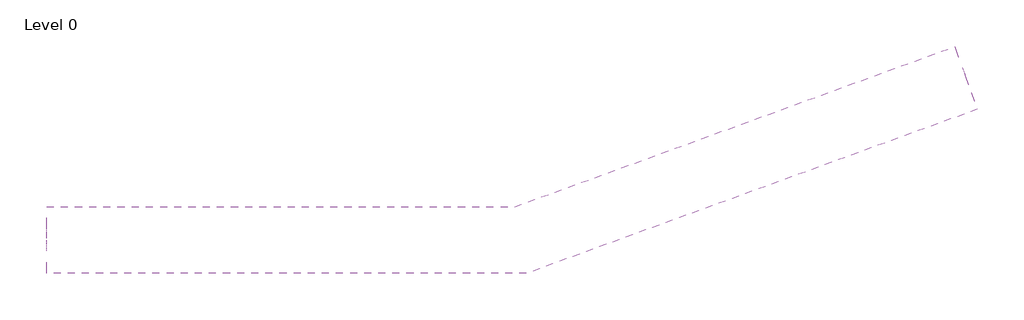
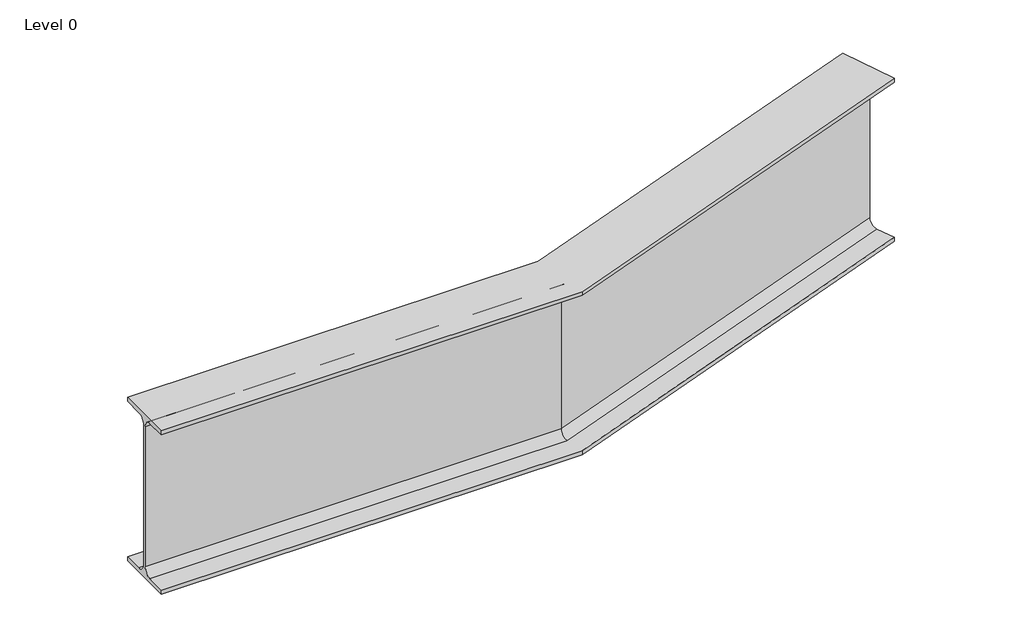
# One storey, incomplete: 1 beam.
"""IFC4 building model written with IfcOpenShell, lengths in millimetres."""

import ifcopenshell
import ifcopenshell.guid

model = None  # the IFC model being written
_history = None  # IfcOwnerHistory: only IFC2X3 demands one
_inside = {}  # id of a spatial element -> (the spatial element, [elements in it])
_under = {}  # id of a project, library or spatial element -> (it, [spatial elements below it])
_declared = {}  # id of a project -> (the project, [libraries it declares])
_typed = {}  # id of a type object -> (the type object, [elements of that type])
_made_of = {}  # id of a material, layer set ... -> (it, [elements and type objects made of it])


def new_model(schema):
    """Start an empty IFC model of exactly this schema.

    Asked for "IFC4X3", IfcOpenShell would pick the latest addendum, in which some entities
    have other attributes; the version numbers below select the first issue.
    IFC2X3 requires an IfcOwnerHistory on every rooted entity: one is made here for all.
    """
    global model, _history
    if schema == "IFC4X3":
        model = ifcopenshell.file(schema_version=(4, 3, 0, 0))
    else:
        model = ifcopenshell.file(schema=schema)
    _inside.clear()
    _under.clear()
    _declared.clear()
    _typed.clear()
    _made_of.clear()
    _history = None
    if model.schema == "IFC2X3":
        org = make("IfcOrganization", Name="unknown")
        user = make(
            "IfcPersonAndOrganization",
            ThePerson=make("IfcPerson", FamilyName="unknown"),
            TheOrganization=org,
        )
        app = make(
            "IfcApplication",
            ApplicationDeveloper=org,
            Version="unknown",
            ApplicationFullName="unknown",
            ApplicationIdentifier="unknown",
        )
        _history = make(
            "IfcOwnerHistory",
            OwningUser=user,
            OwningApplication=app,
            ChangeAction="ADDED",
            CreationDate=0,
        )
    return model


def make(cls, **values):
    """One entity of the class cls with the attributes given. An attribute that is None is left unset."""
    return model.create_entity(
        cls, **{name: value for name, value in values.items() if value is not None}
    )


def rooted(cls, **values):
    """An entity with a GlobalId (a new one), such as an element, a storey or a relation."""
    return make(cls, GlobalId=ifcopenshell.guid.new(), OwnerHistory=_history, **values)


def si_unit(unit_type, name, prefix=None):
    """IfcSIUnit, for example si_unit("LENGTHUNIT", "METRE", prefix="MILLI")."""
    return make("IfcSIUnit", UnitType=unit_type, Prefix=prefix, Name=name)


def assignment(units):
    """IfcUnitAssignment: the units of a project."""
    return None if units is None else make("IfcUnitAssignment", Units=units)


def point(xyz):
    """IfcCartesianPoint."""
    return None if xyz is None else make("IfcCartesianPoint", Coordinates=xyz)


def direction(xyz):
    """IfcDirection."""
    return None if xyz is None else make("IfcDirection", DirectionRatios=xyz)


def frame(location, z_axis=None, x_axis=None):
    """IfcAxis2Placement3D, a coordinate frame: its origin and axes. An axis left out is left unset."""
    return make(
        "IfcAxis2Placement3D",
        Location=point(location),
        Axis=direction(z_axis),
        RefDirection=direction(x_axis),
    )


def origin():
    """The frame at (0, 0, 0) with its axes left unset."""
    return frame((0.0, 0.0, 0.0))


def place(relative_to, where):
    """IfcLocalPlacement: puts the frame where relative to a parent placement (None: the world)."""
    return make(
        "IfcLocalPlacement", PlacementRelTo=relative_to, RelativePlacement=where
    )


def context(
    kind, dimensions, precision=None, world=None, true_north=None, identifier=None
):
    """IfcGeometricRepresentationContext, for example the 3D "Model" context."""
    return make(
        "IfcGeometricRepresentationContext",
        ContextIdentifier=identifier,
        ContextType=kind,
        CoordinateSpaceDimension=dimensions,
        Precision=precision,
        WorldCoordinateSystem=world,
        TrueNorth=true_north,
    )


def project(units=None, contexts=None):
    """IfcProject with its units and contexts."""
    return rooted(
        "IfcProject",
        Name="project",
        RepresentationContexts=contexts,
        UnitsInContext=assignment(units),
    )


def spatial(cls, under=None, at=None, **own):
    """A site, building, storey or space (cls), placed at a placement, below another one or the project."""
    s = rooted(cls, ObjectPlacement=at, **own)
    if under is not None:
        _under.setdefault(under.id(), (under, []))[1].append(s)
    return s


def polyline(points):
    """IfcPolyline through the points."""
    return make("IfcPolyline", Points=[point(p) for p in points])


def circle_curve(where, radius):
    """IfcCircle in the frame where."""
    return make("IfcCircle", Position=where, Radius=radius)


def ellipse_curve(where, semi_axis1, semi_axis2):
    """IfcEllipse in the frame where."""
    return make(
        "IfcEllipse", Position=where, SemiAxis1=semi_axis1, SemiAxis2=semi_axis2
    )


def shape(context_of_items, identifier, shape_type, items):
    """IfcShapeRepresentation: the items that make up one representation, for example the "Body"."""
    return make(
        "IfcShapeRepresentation",
        ContextOfItems=context_of_items,
        RepresentationIdentifier=identifier,
        RepresentationType=shape_type,
        Items=items,
    )


def source(mapping_origin, context_of_items, identifier, shape_type, items):
    """IfcRepresentationMap: a shape defined once, which mapped items show again and again."""
    return make(
        "IfcRepresentationMap",
        MappingOrigin=mapping_origin,
        MappedRepresentation=shape(context_of_items, identifier, shape_type, items),
    )


def transform(
    local_origin,
    x_axis=None,
    y_axis=None,
    z_axis=None,
    scale=None,
    scale2=None,
    scale3=None,
    uniform=True,
):
    """IfcCartesianTransformationOperator3D, or its non-uniform kind. x_axis, y_axis, z_axis: its Axis1, 2, 3."""
    if uniform:
        return make(
            "IfcCartesianTransformationOperator3D",
            Axis1=direction(x_axis),
            Axis2=direction(y_axis),
            LocalOrigin=point(local_origin),
            Scale=scale,
            Axis3=direction(z_axis),
        )
    return make(
        "IfcCartesianTransformationOperator3DnonUniform",
        Axis1=direction(x_axis),
        Axis2=direction(y_axis),
        LocalOrigin=point(local_origin),
        Scale=scale,
        Axis3=direction(z_axis),
        Scale2=scale2,
        Scale3=scale3,
    )


def mapped(mapping_source, mapping_target):
    """IfcMappedItem: shows the shape of a source again, moved by a transform."""
    return make(
        "IfcMappedItem", MappingSource=mapping_source, MappingTarget=mapping_target
    )


def made_of(thing, what):
    """Note that an element or type object is made of a material, layer set ...; save() writes the relation."""
    if what is not None:
        _made_of.setdefault(what.id(), (what, []))[1].append(thing)
    return thing


def element(
    cls,
    number,
    at=None,
    inside=None,
    cuts=None,
    type_object=None,
    material=None,
    context=None,
    identifier="Body",
    shape_type=None,
    held_by="IfcProductDefinitionShape",
    body=None,
    shapes=None,
    **own,
):
    """One element of the class cls, such as IfcWall. Its Tag is "e" and its number.

    at: its placement. inside: the storey or other place that contains it. cuts: it is an
    opening in that element (IfcRelVoidsElement). A single representation is given by context,
    identifier, shape_type and body (its items); several are given by shapes. held_by: the class
    of the entity that holds the representations. save() writes the other relations.
    """
    e = rooted(cls, Tag="e%d" % number, ObjectPlacement=at, **own)
    if body is not None:
        shapes = [shape(context, identifier, shape_type, body)]
    if shapes is not None:
        e.Representation = make(held_by, Representations=shapes)
    if inside is not None:
        _inside.setdefault(inside.id(), (inside, []))[1].append(e)
    if cuts is not None:
        rooted(
            "IfcRelVoidsElement", RelatingBuildingElement=cuts, RelatedOpeningElement=e
        )
    if type_object is not None:
        _typed.setdefault(type_object.id(), (type_object, []))[1].append(e)
    return made_of(e, material)


def aggregate(whole, parts):
    """IfcRelAggregates: a whole, such as a stair, and the parts it consists of."""
    return rooted("IfcRelAggregates", RelatingObject=whole, RelatedObjects=parts)


def save(model, path):
    """Write the relations noted so far, then the file.

    IfcRelAggregates (storeys below a building ...), IfcRelContainedInSpatialStructure (elements
    in a storey), IfcRelDefinesByType, IfcRelAssociatesMaterial and IfcRelDeclares: one each for
    every whole, place, type object, material and project.
    """
    for whole, parts in _under.values():
        aggregate(whole, parts)
    for where, things in _inside.values():
        rooted(
            "IfcRelContainedInSpatialStructure",
            RelatedElements=things,
            RelatingStructure=where,
        )
    for kind, things in _typed.values():
        rooted("IfcRelDefinesByType", RelatedObjects=things, RelatingType=kind)
    for what, things in _made_of.values():
        rooted("IfcRelAssociatesMaterial", RelatedObjects=things, RelatingMaterial=what)
    for by, libraries in _declared.values():
        rooted("IfcRelDeclares", RelatingContext=by, RelatedDefinitions=libraries)
    model.write(path)


def plane_surface(at):
    """IfcPlane: the flat surface through the origin of the frame at, square to its z axis."""
    return make("IfcPlane", Position=at)


def revolved_surface(curve, axis_point, axis_direction):
    """IfcSurfaceOfRevolution: the curve turned about the line through axis_point along axis_direction."""
    return make(
        "IfcSurfaceOfRevolution",
        SweptCurve=make("IfcArbitraryOpenProfileDef", ProfileType="CURVE", Curve=curve),
        AxisPosition=make("IfcAxis1Placement", Location=point(axis_point), Axis=direction(axis_direction)),
    )


def advanced_brep(points, edges, surfaces, faces):
    """IfcAdvancedBrep: a solid bounded by faces that lie on surfaces and meet in shared edges.

    An edge is (start, end): straight between two places in points (the first is 0);
    or (start, end, curve); or (start, end, curve, False) where it runs against its curve.
    A face is (place in surfaces, loops), or (place, loops, False) where it looks against
    its surface's normal. A loop lists edges by number (the first is 1), with a minus sign
    where the edge is run from its end to its start. The first loop is the outer one.
    """
    corners = [point(p) for p in points]
    vertices = [make("IfcVertexPoint", VertexGeometry=c) for c in corners]
    made = []
    for start, end, *more in edges:
        made.append(
            make(
                "IfcEdgeCurve",
                EdgeStart=vertices[start],
                EdgeEnd=vertices[end],
                EdgeGeometry=more[0] if more else make("IfcPolyline", Points=[corners[start], corners[end]]),
                SameSense=more[1] if len(more) > 1 else True,
            )
        )
    hull = []
    for where, loops, *sense in faces:
        bounds = []
        for j, loop in enumerate(loops):
            ring = [make("IfcOrientedEdge", EdgeElement=made[abs(k) - 1], Orientation=k > 0) for k in loop]
            bounds.append(
                make(
                    "IfcFaceOuterBound" if j == 0 else "IfcFaceBound",
                    Bound=make("IfcEdgeLoop", EdgeList=ring),
                    Orientation=True,
                )
            )
        hull.append(make("IfcAdvancedFace", Bounds=bounds, FaceSurface=surfaces[where], SameSense=sense[0] if sense else True))
    return make("IfcAdvancedBrep", Outer=make("IfcClosedShell", CfsFaces=hull))


def beam_3adde7b2(model_context):
    return source(origin(), model_context, "Body", "AdvancedBrep", [
        advanced_brep(
        [(30484.4500022, 15287.0000005, 3256.0), (30484.4500022, 15338.3000005, 3256.0), (30484.4500022, 15359.4000005, 3277.1), (30484.4500022, 15359.4000005, 3662.9), (30484.4500022, 15338.3000005, 3684.0), (30484.4500022, 15287.0000005, 3684.0), (30484.4500022, 15287.0000005, 3694.9), (30484.4500022, 15439.4000005, 3694.9), (30484.4500022, 15439.4000005, 3684.0), (30484.4500022, 15388.1000005, 3684.0), (30484.4500022, 15367.0000005, 3662.9), (30484.4500022, 15367.0000005, 3277.1), (30484.4500022, 15388.1000005, 3256.0), (30484.4500022, 15439.4000005, 3256.0), (30484.4500022, 15439.4000005, 3245.1), (30484.4500022, 15287.0000005, 3245.1), (31580.7314082, 15287.0000005, 3256.0), (32610.8989551, 15661.9503238, 3256.0), (32593.3533217, 15710.1565552, 3256.0), (31571.6858341, 15338.3000005, 3256.0), (31567.9653348, 15359.4000005, 3277.1), (31567.9653348, 15359.4000005, 3662.9), (31571.6858341, 15338.3000005, 3684.0), (32593.3533217, 15710.1565552, 3684.0), (32610.8989551, 15661.9503238, 3684.0), (31580.7314082, 15287.0000005, 3684.0), (31580.7314082, 15287.0000005, 3694.9), (32610.8989551, 15661.9503238, 3694.9), (32558.7750852, 15805.1594792, 3694.9), (31553.8591764, 15439.4000005, 3694.9), (31553.8591764, 15439.4000005, 3684.0), (32558.7750852, 15805.1594792, 3684.0), (32576.3207186, 15756.9532478, 3684.0), (31562.9047505, 15388.1000005, 3684.0), (31566.6252498, 15367.0000005, 3662.9), (31566.6252498, 15367.0000005, 3277.1), (31562.9047505, 15388.1000005, 3256.0), (32576.3207186, 15756.9532478, 3256.0), (32558.7750852, 15805.1594792, 3256.0), (31553.8591764, 15439.4000005, 3256.0), (31553.8591764, 15439.4000005, 3245.1), (32558.7750852, 15805.1594792, 3245.1), (32610.8989551, 15661.9503238, 3245.1), (31580.7314082, 15287.0000005, 3245.1), (32583.5373436, 15737.1257335, 3277.1), (32583.5373436, 15737.1257335, 3662.9), (32586.1366967, 15729.9840695, 3662.9), (32586.1366967, 15729.9840695, 3277.1)],
        [
            (0, 1),
            (1, 2, circle_curve(frame((30484.4500022, 15338.3000005, 3277.1), z_axis=(1.0, 0.0, 0.0), x_axis=(0.0, 1.0, 0.0)), 21.1)),
            (2, 3),
            (3, 4, circle_curve(frame((30484.4500022, 15338.3000005, 3662.9), z_axis=(1.0, 0.0, 0.0), x_axis=(0.0, 1.0, 0.0)), 21.1)),
            (4, 5),
            (5, 6),
            (6, 7),
            (7, 8),
            (8, 9),
            (9, 10, circle_curve(frame((30484.4500022, 15388.1000005, 3662.9), z_axis=(1.0, 0.0, 0.0), x_axis=(0.0, 1.0, 0.0)), 21.1)),
            (10, 11),
            (11, 12, circle_curve(frame((30484.4500022, 15388.1000005, 3277.1), z_axis=(1.0, 0.0, 0.0), x_axis=(0.0, 1.0, 0.0)), 21.1)),
            (12, 13),
            (13, 14),
            (14, 15),
            (15, 0),
            (0, 16),
            (16, 17),
            (17, 18),
            (18, 19),
            (19, 1),
            (19, 20, ellipse_curve(frame((31571.6858341, 15338.3000005, 3277.1), z_axis=(0.9848077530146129, 0.17364817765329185, 0.0), x_axis=(0.17364817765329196, -0.984807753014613, 0.0)), 21.4255015, 21.1)),
            (20, 2),
            (20, 21),
            (21, 3),
            (21, 22, ellipse_curve(frame((31571.6858341, 15338.3000005, 3662.9), z_axis=(0.9848077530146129, 0.17364817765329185, 0.0), x_axis=(0.17364817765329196, -0.984807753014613, 0.0)), 21.4255015, 21.1)),
            (22, 4),
            (22, 23),
            (23, 24),
            (24, 25),
            (25, 5),
            (25, 26),
            (26, 6),
            (26, 27),
            (27, 28),
            (28, 29),
            (29, 7),
            (29, 30),
            (30, 8),
            (30, 31),
            (31, 32),
            (32, 33),
            (33, 9),
            (33, 34, ellipse_curve(frame((31562.9047505, 15388.1000005, 3662.9), z_axis=(0.9848077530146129, 0.17364817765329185, 0.0), x_axis=(0.17364817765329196, -0.984807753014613, 0.0)), 21.4255015, 21.1)),
            (34, 10),
            (34, 35),
            (35, 11),
            (35, 36, ellipse_curve(frame((31562.9047505, 15388.1000005, 3277.1), z_axis=(0.9848077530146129, 0.17364817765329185, 0.0), x_axis=(0.17364817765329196, -0.984807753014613, 0.0)), 21.4255015, 21.1)),
            (36, 12),
            (36, 37),
            (37, 38),
            (38, 39),
            (39, 13),
            (39, 40),
            (40, 14),
            (40, 41),
            (41, 42),
            (42, 43),
            (43, 15),
            (43, 16),
            (17, 42),
            (41, 38),
            (37, 44, circle_curve(frame((32576.3207186, 15756.9532478, 3277.1), z_axis=(-0.9396926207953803, -0.34202014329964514, 0.0), x_axis=(-0.34202014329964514, 0.9396926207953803, 0.0)), 21.1)),
            (44, 45),
            (45, 32, circle_curve(frame((32576.3207186, 15756.9532478, 3662.9), z_axis=(-0.9396926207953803, -0.34202014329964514, 0.0), x_axis=(-0.34202014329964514, 0.9396926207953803, 0.0)), 21.1)),
            (31, 28),
            (27, 24),
            (23, 46, circle_curve(frame((32593.3533217, 15710.1565552, 3662.9), z_axis=(-0.9396926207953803, -0.34202014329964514, 0.0), x_axis=(-0.34202014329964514, 0.9396926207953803, 0.0)), 21.1)),
            (46, 47),
            (47, 18, circle_curve(frame((32593.3533217, 15710.1565552, 3277.1), z_axis=(-0.9396926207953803, -0.34202014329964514, 0.0), x_axis=(-0.34202014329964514, 0.9396926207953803, 0.0)), 21.1)),
            (47, 20),
            (46, 21),
            (45, 34),
            (44, 35),
        ],
        [
            plane_surface(frame((30484.4500022, 15363.2000005, 3695.0), z_axis=(-1.0, 0.0, 0.0), x_axis=(0.0, 0.0, 1.0))),
            plane_surface(frame((30484.4500022, 15287.0000005, 3256.0), z_axis=(0.0, 0.0, 1.0), x_axis=(1.0, 0.0, 0.0))),
            revolved_surface(polyline([(31575.406333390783, 15359.4000005, 3277.1), (30484.4500022, 15359.4000005, 3277.1)]), (30484.4500022, 15338.3000005, 3277.1), (1.0, 0.0, 0.0)),
            plane_surface(frame((30484.4500022, 15359.4000005, 3277.1), z_axis=(0.0, -1.0, 0.0), x_axis=(1.0, 0.0, 0.0))),
            revolved_surface(polyline([(31575.406333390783, 15359.4000005, 3662.9), (30484.4500022, 15359.4000005, 3662.9)]), (30484.4500022, 15338.3000005, 3662.9), (1.0, 0.0, 0.0)),
            plane_surface(frame((30484.4500022, 15338.3000005, 3684.0), z_axis=(0.0, 0.0, -1.0), x_axis=(1.0, 0.0, 0.0))),
            plane_surface(frame((30484.4500022, 15287.0000005, 3684.0), z_axis=(0.0, -1.0, 0.0), x_axis=(1.0, 0.0, 0.0))),
            plane_surface(frame((30484.4500022, 15287.0000005, 3694.9), z_axis=(0.0, 0.0, 1.0), x_axis=(1.0, 0.0, 0.0))),
            plane_surface(frame((30484.4500022, 15439.4000005, 3694.9), z_axis=(0.0, 1.0, 0.0), x_axis=(1.0, 0.0, 0.0))),
            plane_surface(frame((30484.4500022, 15439.4000005, 3684.0), z_axis=(0.0, 0.0, -1.0), x_axis=(1.0, 0.0, 0.0))),
            revolved_surface(polyline([(31566.6252498, 15409.2000005, 3662.9), (30484.4500022, 15409.2000005, 3662.9)]), (30484.4500022, 15388.1000005, 3662.9), (1.0, 0.0, 0.0)),
            plane_surface(frame((30484.4500022, 15367.0000005, 3662.9), z_axis=(0.0, 1.0, 0.0), x_axis=(1.0, 0.0, 0.0))),
            revolved_surface(polyline([(31566.6252498, 15409.2000005, 3277.1), (30484.4500022, 15409.2000005, 3277.1)]), (30484.4500022, 15388.1000005, 3277.1), (1.0, 0.0, 0.0)),
            plane_surface(frame((30484.4500022, 15388.1000005, 3256.0), z_axis=(0.0, 0.0, 1.0), x_axis=(1.0, 0.0, 0.0))),
            plane_surface(frame((30484.4500022, 15439.4000005, 3256.0), z_axis=(0.0, 1.0, 0.0), x_axis=(1.0, 0.0, 0.0))),
            plane_surface(frame((30484.4500022, 15439.4000005, 3245.1), z_axis=(0.0, 0.0, -1.0), x_axis=(1.0, 0.0, 0.0))),
            plane_surface(frame((30484.4500022, 15287.0000005, 3245.1), z_axis=(0.0, -1.0, 0.0), x_axis=(1.0, 0.0, 0.0))),
            plane_surface(frame((32584.8370201, 15733.5549015, 3695.0), z_axis=(0.9396926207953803, 0.34202014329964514, 0.0), x_axis=(0.0, 0.0, 1.0))),
            revolved_surface(polyline([(32586.136696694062, 15729.98406951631, 3277.1), (31560.973083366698, 15356.855029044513, 3277.1)]), (31575.8115939, 15339.8016542, 3277.1), (0.9396926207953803, 0.34202014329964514, 0.0)),
            plane_surface(frame((31567.9653348, 15359.4000005, 3277.1), z_axis=(0.34202014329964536, -0.9396926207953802, 0.0), x_axis=(0.9396926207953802, 0.34202014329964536, 0.0))),
            revolved_surface(polyline([(32586.136696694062, 15729.98406951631, 3662.9), (31560.973083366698, 15356.855029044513, 3662.9)]), (31575.8115939, 15339.8016542, 3662.9), (0.9396926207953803, 0.34202014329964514, 0.0)),
            plane_surface(frame((31580.7314082, 15287.0000005, 3684.0), z_axis=(0.3420201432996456, -0.9396926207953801, 0.0), x_axis=(0.9396926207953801, 0.3420201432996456, 0.0))),
            plane_surface(frame((31553.8591764, 15439.4000005, 3694.9), z_axis=(-0.34202014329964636, 0.9396926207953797, 0.0), x_axis=(0.9396926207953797, 0.34202014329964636, 0.0))),
            revolved_surface(polyline([(32569.104093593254, 15776.780762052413, 3662.9), (31552.191999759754, 15406.655029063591, 3662.9)]), (31558.7789907, 15386.5983467, 3662.9), (0.9396926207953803, 0.34202014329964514, 0.0)),
            plane_surface(frame((31566.6252498, 15367.0000005, 3662.9), z_axis=(-0.3420201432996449, 0.9396926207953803, 0.0), x_axis=(0.9396926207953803, 0.3420201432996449, 0.0))),
            revolved_surface(polyline([(32569.104093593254, 15776.780762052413, 3277.1), (31552.191999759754, 15406.655029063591, 3277.1)]), (31558.7789907, 15386.5983467, 3277.1), (0.9396926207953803, 0.34202014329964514, 0.0)),
            plane_surface(frame((31553.8591764, 15439.4000005, 3256.0), z_axis=(-0.34202014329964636, 0.9396926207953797, 0.0), x_axis=(0.9396926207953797, 0.34202014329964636, 0.0))),
            plane_surface(frame((31580.7314082, 15287.0000005, 3245.1), z_axis=(0.3420201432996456, -0.9396926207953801, 0.0), x_axis=(0.9396926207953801, 0.3420201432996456, 0.0))),
        ],
        [
            (0, [[1, 2, 3, 4, 5, 6, 7, 8, 9, 10, 11, 12, 13, 14, 15, 16]]),
            (1, [[-1, 17, 18, 19, 20, 21]]),
            (2, [[-2, -21, 22, 23]]),
            (3, [[-3, -23, 24, 25]]),
            (4, [[-4, -25, 26, 27]]),
            (5, [[-5, -27, 28, 29, 30, 31]]),
            (6, [[-6, -31, 32, 33]]),
            (7, [[-7, -33, 34, 35, 36, 37]]),
            (8, [[-8, -37, 38, 39]]),
            (9, [[-9, -39, 40, 41, 42, 43]]),
            (10, [[-10, -43, 44, 45]]),
            (11, [[-11, -45, 46, 47]]),
            (12, [[-12, -47, 48, 49]]),
            (13, [[-13, -49, 50, 51, 52, 53]]),
            (14, [[-14, -53, 54, 55]]),
            (15, [[-15, -55, 56, 57, 58, 59]]),
            (16, [[-16, -59, 60, -17]]),
            (17, [[61, -57, 62, -51, 63, 64, 65, -41, 66, -35, 67, -29, 68, 69, 70, -19]]),
            (18, [[-22, -20, -70, 71]]),
            (19, [[-24, -71, -69, 72]]),
            (20, [[-26, -72, -68, -28]]),
            (21, [[-32, -30, -67, -34]]),
            (22, [[-38, -36, -66, -40]]),
            (23, [[-44, -42, -65, 73]]),
            (24, [[-46, -73, -64, 74]]),
            (25, [[-48, -74, -63, -50]]),
            (26, [[-54, -52, -62, -56]]),
            (27, [[-60, -58, -61, -18]]),
        ],
    ),
    ])


model = new_model("IFC4")

# Units and contexts
model_context = context("Model", 3, world=origin())
ifc_project = project(units=[si_unit("LENGTHUNIT", "METRE", prefix="MILLI")], contexts=[model_context])

# Site, building, storey
site = spatial("IfcSite", under=ifc_project)
building = spatial("IfcBuilding", under=site)
storey = spatial("IfcBuildingStorey", under=building, Name="Level 0", Elevation=0.0)

# Beam
placement = place(None, origin())
beam_shape = beam_3adde7b2(model_context)
element("IfcBeam", 1, ObjectType="Cranked Beam B1 : Cranked Beam B1", at=placement, inside=storey, context=model_context, shape_type="MappedRepresentation", body=[
    mapped(beam_shape, transform((0.0, 0.0, 0.0), x_axis=(1.0, 0.0, 0.0), y_axis=(0.0, 1.0, 0.0), z_axis=(0.0, 0.0, 1.0))),
])

save(model, "model.ifc")
